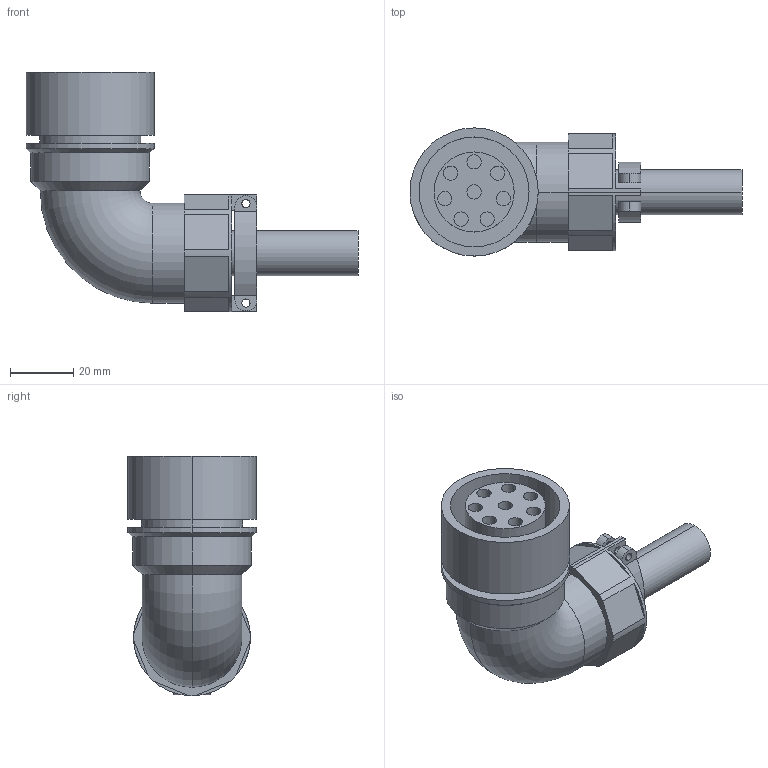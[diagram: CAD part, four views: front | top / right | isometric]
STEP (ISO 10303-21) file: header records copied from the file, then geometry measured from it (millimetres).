
FILE_DESCRIPTION (( 'STEP AP214' ), '1' );
FILE_NAME ('3108A22-23P.STEP', '2023-02-17T05:06:56', ( 'Windows User' ), ( 'P R C' ), 'SwSTEP 2.0', 'SolidWorks 2019', '' );
FILE_SCHEMA (( 'AUTOMOTIVE_DESIGN' ));
Length unit declared in the file: millimetre
Products named in the file (1): 3108A22-23P
Bounding box: 105.14 x 40.6 x 75.84 mm (x, y, z)
Volume: 90218.8 mm3; surface area: 22552 mm2
Topology: 3 solids, 3 shells, 116 faces, 278 edges, 182 vertices
Faces by surface type: cylinder 58, plane 52, cone 4, torus 2
Entity records: 3498 total; most frequent: DIRECTION 652, CARTESIAN_POINT 577, ORIENTED_EDGE 556, EDGE_CURVE 278, AXIS2_PLACEMENT_3D 257, VERTEX_POINT 182, EDGE_LOOP 142, CIRCLE 140
